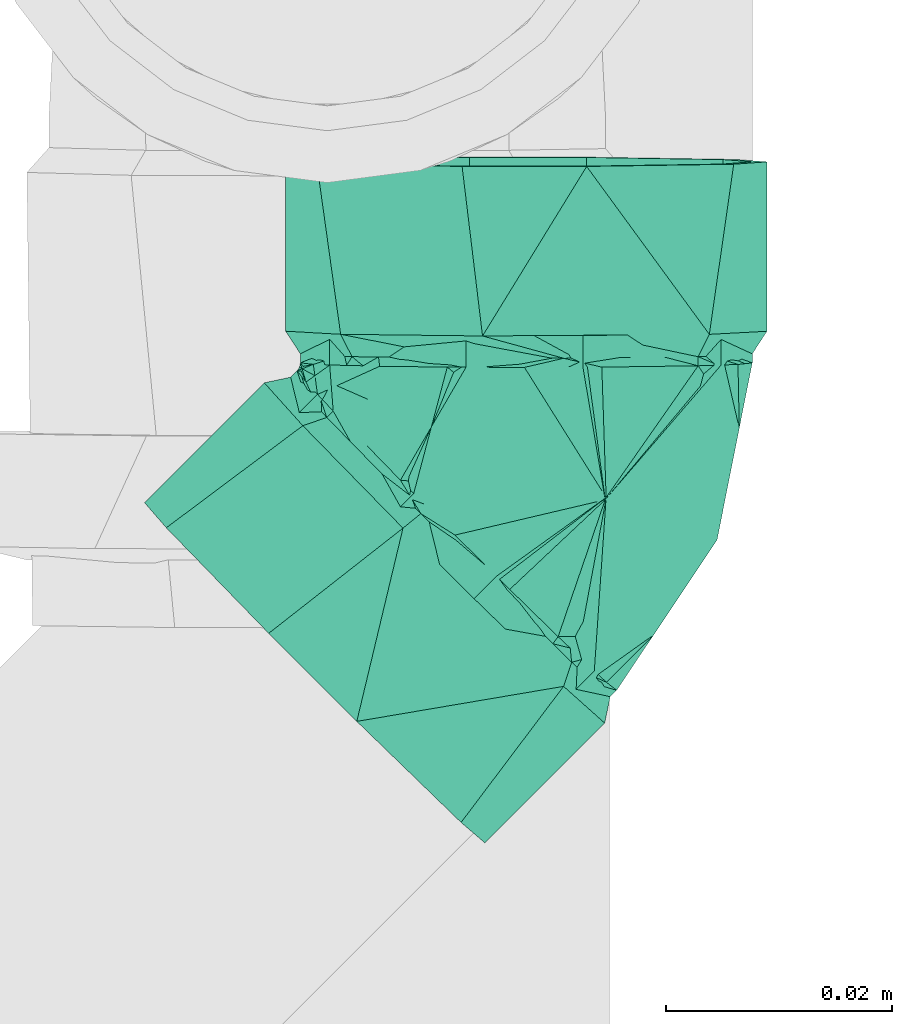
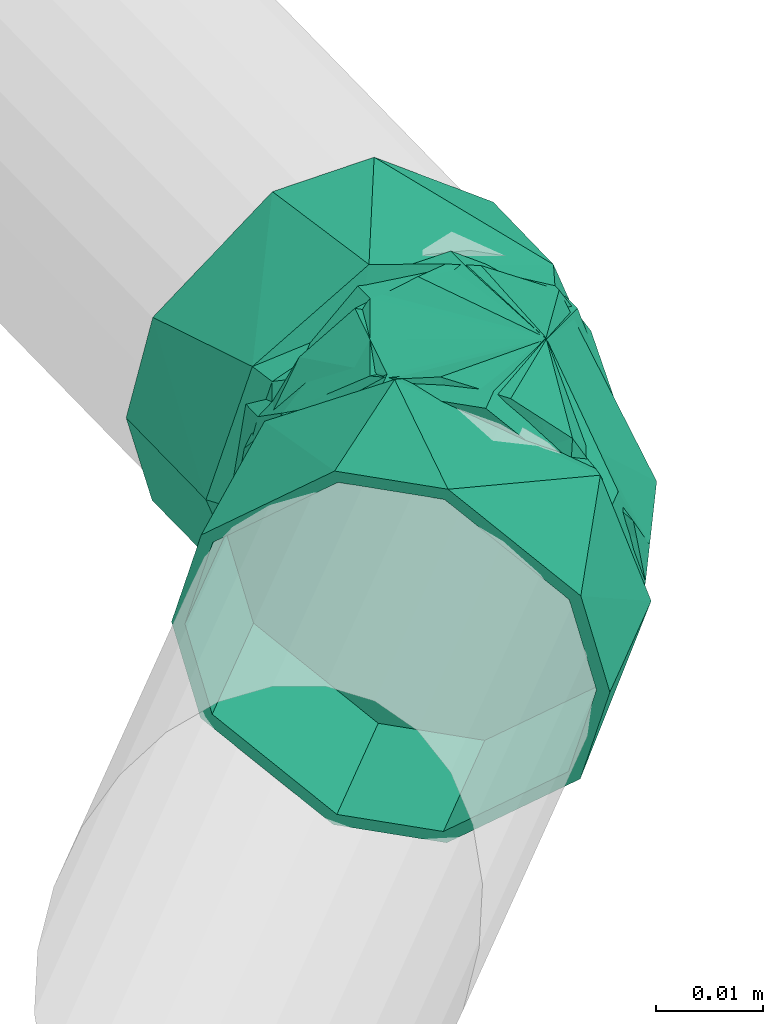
# One storey, part 332 of 589: 1 flow fitting.
"""IFC2X3 building model written with IfcOpenShell, lengths in millimetres."""

from ifc_helpers import new_model, entity, si_unit, converted_unit, derived_unit, direction, frame, origin, place, context, subcontext, project, spatial, faceted_brep, source, transform, mapped, material, type_object, type_shapes, element, save


model = new_model("IFC2X3")

# Units and contexts
model_context = context("Model", 3, precision=0.01, world=origin(), true_north=direction((6.123031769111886e-17, 1.0)))
body_context = subcontext(model_context, "Body", "Model", "MODEL_VIEW")
ifc_project = project(units=[si_unit("LENGTHUNIT", "METRE", prefix="MILLI"), si_unit("AREAUNIT", "SQUARE_METRE"), si_unit("VOLUMEUNIT", "CUBIC_METRE"), converted_unit("PLANEANGLEUNIT", "DEGREE", entity("IfcRatioMeasure", 0.017453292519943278), si_unit("PLANEANGLEUNIT", "RADIAN"), dimensions=[0, 0, 0, 0, 0, 0, 0]), si_unit("MASSUNIT", "GRAM", prefix="KILO"), derived_unit("MASSDENSITYUNIT", [(si_unit("MASSUNIT", "GRAM", prefix="KILO"), 1), (si_unit("LENGTHUNIT", "METRE"), -3)]), derived_unit("IONCONCENTRATIONUNIT", [(si_unit("MASSUNIT", "GRAM", prefix="KILO"), 1), (si_unit("LENGTHUNIT", "METRE"), -3)]), derived_unit("MOMENTOFINERTIAUNIT", [(si_unit("LENGTHUNIT", "METRE"), 4)]), si_unit("TIMEUNIT", "SECOND"), si_unit("FREQUENCYUNIT", "HERTZ"), si_unit("THERMODYNAMICTEMPERATUREUNIT", "DEGREE_CELSIUS"), derived_unit("THERMALTRANSMITTANCEUNIT", [(si_unit("MASSUNIT", "GRAM", prefix="KILO"), 1), (si_unit("THERMODYNAMICTEMPERATUREUNIT", "KELVIN"), -1), (si_unit("TIMEUNIT", "SECOND"), -3)]), derived_unit("THERMALCONDUCTANCEUNIT", [(si_unit("MASSUNIT", "GRAM", prefix="KILO"), 1), (si_unit("THERMODYNAMICTEMPERATUREUNIT", "KELVIN"), -1), (si_unit("TIMEUNIT", "SECOND"), -3), (si_unit("LENGTHUNIT", "METRE"), 1)]), derived_unit("VOLUMETRICFLOWRATEUNIT", [(si_unit("LENGTHUNIT", "METRE"), 3), (si_unit("TIMEUNIT", "SECOND"), -1)]), derived_unit("MASSFLOWRATEUNIT", [(si_unit("MASSUNIT", "GRAM", prefix="KILO"), 1), (si_unit("TIMEUNIT", "SECOND"), -1)]), derived_unit("ROTATIONALFREQUENCYUNIT", [(si_unit("TIMEUNIT", "SECOND"), -1)]), si_unit("ELECTRICCURRENTUNIT", "AMPERE"), si_unit("ELECTRICVOLTAGEUNIT", "VOLT"), si_unit("POWERUNIT", "WATT"), si_unit("FORCEUNIT", "NEWTON", prefix="KILO"), si_unit("ILLUMINANCEUNIT", "LUX"), si_unit("LUMINOUSFLUXUNIT", "LUMEN"), si_unit("LUMINOUSINTENSITYUNIT", "CANDELA"), derived_unit("USERDEFINED", [(si_unit("MASSUNIT", "GRAM", prefix="KILO"), -1), (si_unit("LENGTHUNIT", "METRE"), -2), (si_unit("TIMEUNIT", "SECOND"), 3), (si_unit("LUMINOUSFLUXUNIT", "LUMEN"), 1)]), derived_unit("USERDEFINED", [(si_unit("MASSUNIT", "GRAM", prefix="KILO"), 1), (si_unit("TIMEUNIT", "SECOND"), -3), (si_unit("LENGTHUNIT", "METRE"), 3), (si_unit("ELECTRICCURRENTUNIT", "AMPERE"), -2)]), derived_unit("SOUNDPOWERUNIT", [(si_unit("MASSUNIT", "GRAM", prefix="KILO"), 1), (si_unit("TIMEUNIT", "SECOND"), -3), (si_unit("LENGTHUNIT", "METRE"), 2)]), derived_unit("SOUNDPRESSUREUNIT", [(si_unit("MASSUNIT", "GRAM", prefix="KILO"), 1), (si_unit("LENGTHUNIT", "METRE"), -1), (si_unit("TIMEUNIT", "SECOND"), -2)]), derived_unit("LINEARVELOCITYUNIT", [(si_unit("LENGTHUNIT", "METRE"), 1), (si_unit("TIMEUNIT", "SECOND"), -1)]), si_unit("PRESSUREUNIT", "PASCAL"), derived_unit("USERDEFINED", [(si_unit("MASSUNIT", "GRAM", prefix="KILO"), 1), (si_unit("LENGTHUNIT", "METRE"), -2), (si_unit("TIMEUNIT", "SECOND"), -2)]), derived_unit("LINEARFORCEUNIT", [(si_unit("MASSUNIT", "GRAM", prefix="KILO"), 1), (si_unit("TIMEUNIT", "SECOND"), -2)]), derived_unit("PLANARFORCEUNIT", [(si_unit("MASSUNIT", "GRAM", prefix="KILO"), 1), (si_unit("LENGTHUNIT", "METRE"), -1), (si_unit("TIMEUNIT", "SECOND"), -2)]), derived_unit("SPECIFICHEATCAPACITYUNIT", [(si_unit("THERMODYNAMICTEMPERATUREUNIT", "KELVIN"), -1), (si_unit("LENGTHUNIT", "METRE"), 2), (si_unit("TIMEUNIT", "SECOND"), -2)]), derived_unit("HEATINGVALUEUNIT", [(si_unit("LENGTHUNIT", "METRE"), 2), (si_unit("TIMEUNIT", "SECOND"), -2)]), derived_unit("VAPORPERMEABILITYUNIT", [(si_unit("LENGTHUNIT", "METRE"), -1), (si_unit("TIMEUNIT", "SECOND"), 1)]), derived_unit("DYNAMICVISCOSITYUNIT", [(si_unit("MASSUNIT", "GRAM", prefix="KILO"), 1), (si_unit("TIMEUNIT", "SECOND"), -1), (si_unit("LENGTHUNIT", "METRE"), -1)]), derived_unit("THERMALEXPANSIONCOEFFICIENTUNIT", [(si_unit("THERMODYNAMICTEMPERATUREUNIT", "KELVIN"), -1)]), derived_unit("MODULUSOFELASTICITYUNIT", [(si_unit("MASSUNIT", "GRAM", prefix="KILO"), 1), (si_unit("LENGTHUNIT", "METRE"), -1), (si_unit("TIMEUNIT", "SECOND"), -2)]), derived_unit("ISOTHERMALMOISTURECAPACITYUNIT", [(si_unit("LENGTHUNIT", "METRE"), 3), (si_unit("MASSUNIT", "GRAM", prefix="KILO"), -1)]), derived_unit("MOISTUREDIFFUSIVITYUNIT", [(si_unit("TIMEUNIT", "SECOND"), -1), (si_unit("LENGTHUNIT", "METRE"), 2)])], contexts=[model_context])

# Site, building, storey
site_placement = place(None, origin())
site = spatial("IfcSite", under=ifc_project, at=site_placement, Name="Default", CompositionType="ELEMENT")
building_placement = place(site_placement, origin())
building = spatial("IfcBuilding", under=site, at=building_placement, CompositionType="ELEMENT")
storey_placement = place(building_placement, frame((0.0, 0.0, 100.0)))
storey = spatial("IfcBuildingStorey", under=building, at=storey_placement, Name="TÉRREO", CompositionType="ELEMENT", Elevation=100.0)

# Flow fitting
ifc_material = material(Name="PVC Série Normal")
pipe_fitting_type = type_object("IfcPipeFittingType", Name="PVC Esgoto_Joelho 45_90_Rodrigo MEP:a. Série Normal", PredefinedType="NOTDEFINED", material=ifc_material)
shared_shape = source(origin(), body_context, "Body", "Brep", [
    faceted_brep([(2.4906876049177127, 9.80915852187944, 19.318516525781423), (-6.095084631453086, 18.39777540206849, 10.0), (-7.989457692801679, 20.29277610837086, 0.0), (-6.095084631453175, 18.397775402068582, -10.0), (2.4906876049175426, 9.80915852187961, -19.31851652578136), (9.809983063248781, 2.4874380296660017, -19.318516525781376), (18.39575529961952, -6.101178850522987, -10.0), (20.290128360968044, -7.99617955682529, 0.0), (18.39575529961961, -6.101178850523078, 10.0), (9.809983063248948, 2.4874380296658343, 19.318516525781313), (22.27035525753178, -6.016608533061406, 0.0), (20.37598219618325, -4.121607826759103, -10.0), (11.790209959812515, 4.467009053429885, -19.318516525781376), (4.470914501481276, 11.788729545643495, -19.31851652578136), (-4.1148577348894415, 20.377346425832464, -10.0), (-6.009230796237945, 22.272347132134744, 0.0), (-4.114857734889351, 20.377346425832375, 10.0), (4.470914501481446, 11.788729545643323, 19.318516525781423), (11.790209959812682, 4.467009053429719, 19.318516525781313), (20.37598219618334, -4.12160782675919, 10.0)], [[[0, 1, 2, 3, 4, 5, 6, 7, 8, 9]], [[10, 11, 12, 13, 14, 15, 16, 17, 18, 19]], [[7, 10, 19, 8]], [[8, 19, 18, 9]], [[18, 17, 0, 9]], [[0, 17, 16, 1]], [[1, 16, 15, 2]], [[2, 15, 14, 3]], [[3, 14, 13, 4]], [[13, 12, 5, 4]], [[5, 12, 11, 6]], [[6, 11, 10, 7]]]),
    faceted_brep([(-11.496447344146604, -17.320508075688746, -10.0), (-11.496447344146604, -20.0, 0.0), (-11.496447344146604, -17.320508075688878, 10.0), (-11.496447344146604, -5.176380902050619, 19.318516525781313), (-11.496447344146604, 5.1763809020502, 19.318516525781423), (-11.496447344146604, 17.320508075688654, 10.0), (-11.496447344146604, 20.0, 0.0), (-11.496447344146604, 17.320508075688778, -10.0), (-11.496447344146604, 5.17638090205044, -19.31851652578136), (-11.496447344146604, -5.176380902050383, -19.318516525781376), (-8.696447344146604, 5.17638090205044, -19.31851652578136), (-8.696447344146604, 17.320508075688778, -10.0), (-8.696447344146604, 20.0, 0.0), (-8.696447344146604, 17.320508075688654, 10.0), (-8.696447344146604, 5.1763809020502, 19.318516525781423), (-8.696447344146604, -5.176380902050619, 19.318516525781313), (-8.696447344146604, -17.320508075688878, 10.0), (-8.696447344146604, -20.0, 0.0), (-8.696447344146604, -17.320508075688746, -10.0), (-8.696447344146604, -5.176380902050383, -19.318516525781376)], [[[0, 1, 2, 3, 4, 5, 6, 7, 8, 9]], [[10, 11, 12, 13, 14, 15, 16, 17, 18, 19]], [[1, 17, 16, 2]], [[2, 16, 15, 3]], [[15, 14, 4, 3]], [[4, 14, 13, 5]], [[5, 13, 12, 6]], [[6, 12, 11, 7]], [[7, 11, 10, 8]], [[10, 19, 9, 8]], [[9, 19, 18, 0]], [[0, 18, 17, 1]]]),
    faceted_brep([(-26.496447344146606, -5.512845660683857, -20.574220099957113), (-26.496447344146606, -5.176380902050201, -19.318516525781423), (-26.496447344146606, 5.176380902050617, -19.318516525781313), (-26.496447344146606, -18.44634110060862, -10.649999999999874), (-26.496447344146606, 5.512845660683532, -20.574220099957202), (-26.496447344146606, -17.320508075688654, -10.0), (-26.496447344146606, -20.0, 0.0), (-26.496447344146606, -21.3, 0.0), (-26.496447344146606, -17.32050807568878, 10.0), (-26.496447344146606, -18.446341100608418, 10.65000000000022), (-26.496447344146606, -5.176380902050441, 19.31851652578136), (-26.496447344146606, -5.512845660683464, 20.574220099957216), (-26.496447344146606, 5.176380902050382, 19.318516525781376), (-26.496447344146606, 5.512845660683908, 20.5742200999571), (-26.496447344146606, 17.320508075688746, 10.0), (-26.496447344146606, 18.446341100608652, 10.649999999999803), (-26.496447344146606, 21.3, 0.0), (-26.496447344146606, 20.0, 0.0), (-26.496447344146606, 18.44634110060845, -10.650000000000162), (-26.496447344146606, 17.320508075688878, -10.0), (-11.496447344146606, 17.320508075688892, -10.0), (-11.496447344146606, 20.0, 0.0), (-11.496447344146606, 5.17638090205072, -19.318516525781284), (-11.496447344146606, -5.176380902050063, -19.31851652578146), (-11.496447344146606, -17.320508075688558, -10.0), (-11.496447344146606, -20.0, 0.0), (-11.496447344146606, -17.320508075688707, 10.0), (-11.496447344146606, -5.176380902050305, 19.318516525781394), (-11.496447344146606, 5.176380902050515, 19.318516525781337), (-11.496447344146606, 17.320508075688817, 10.0), (-11.496447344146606, 21.3, 0.0), (-11.496447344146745, 16.315983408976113, 13.692285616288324), (-11.496447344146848, 3.696367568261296, 20.976817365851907), (-11.496447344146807, -16.31941754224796, 13.688192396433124), (-11.496447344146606, -21.3, 0.0), (-11.496447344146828, -6.311524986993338, 17.3325048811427), (-11.496447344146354, -16.319417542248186, -13.688192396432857), (-11.496447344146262, -3.7016293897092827, -20.975889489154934), (-11.49644734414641, 16.315983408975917, -13.692285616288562), (-11.496447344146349, 6.307177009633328, -17.334087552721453), (-9.496447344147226, -3.470767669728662, -19.69654212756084), (-9.496447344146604, 20.0, 0.0), (-9.496447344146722, 18.830849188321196, -3.2131907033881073), (-9.496447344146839, 17.66169837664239, -6.426381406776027), (-9.496447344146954, 16.4925475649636, -9.639572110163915), (-9.496447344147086, 15.323396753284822, -12.852762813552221), (-9.496447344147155, 5.9263145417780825, -16.27465247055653), (-9.496447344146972, -15.320172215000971, -12.856606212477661), (-9.496447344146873, -16.490129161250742, -9.642454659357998), (-9.496447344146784, -17.660086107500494, -6.428303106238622), (-9.496447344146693, -18.830043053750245, -3.214151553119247), (-9.496447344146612, -20.0, 0.0), (-9.496447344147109, 10.624855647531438, -14.563707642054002), (-9.496447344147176, 1.2277734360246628, -17.98559729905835), (-9.49644734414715, -6.433118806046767, -17.98655814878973), (-9.496447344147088, -9.395469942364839, -16.276574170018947), (-9.496447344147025, -12.357821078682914, -14.566590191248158), (-9.49644734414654, -18.830043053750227, 3.2141515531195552), (-9.496447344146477, -17.660086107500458, 6.428303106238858), (-9.49644734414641, -16.490129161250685, 9.64245465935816), (-9.496447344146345, -15.3201722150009, 12.856606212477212), (-9.496447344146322, -12.970687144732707, 13.711489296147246), (-9.496447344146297, -10.621202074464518, 14.566372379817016), (-9.496447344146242, -5.922231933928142, 16.27613854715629), (-9.496447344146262, 15.323396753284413, 12.852762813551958), (-9.496447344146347, 16.49254756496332, 9.63957211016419), (-9.496447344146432, 17.661698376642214, 6.426381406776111), (-9.496447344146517, 18.830849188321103, 3.213190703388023), (-9.496447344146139, 3.47570834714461, 19.695670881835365), (-9.496447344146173, 6.43763044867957, 17.984943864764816), (-9.496447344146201, 9.399552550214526, 16.274216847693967), (-9.496447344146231, 12.361474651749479, 14.563489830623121), (-9.496447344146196, -1.2232617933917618, 17.985904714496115), (-8.696447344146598, 17.057389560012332, 9.848048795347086), (-8.696447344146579, 6.840479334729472, 18.793824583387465), (-8.696447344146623, -9.848049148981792, 17.057385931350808), (-8.696447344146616, -3.420183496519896, 19.396932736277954), (-8.696447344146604, 0.0, 20.0), (-8.696447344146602, 19.396930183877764, 3.4201905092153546), (-8.696447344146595, 15.320918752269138, 12.855716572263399), (-8.696447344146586, 11.080699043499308, 15.82477057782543), (-8.696447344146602, 18.793860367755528, 6.840381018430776), (-8.696447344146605, -18.793848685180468, 6.840413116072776), (-8.696447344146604, 20.0, 0.0), (-8.696447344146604, -20.0, 0.0), (-8.69644734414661, -15.824789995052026, 11.080659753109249), (-8.696447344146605, -19.156924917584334, 4.781308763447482), (-8.696447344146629, -6.84036699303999, 18.793865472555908), (-8.696447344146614, -14.34026064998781, 13.200783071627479), (-8.696447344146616, -12.855731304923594, 15.320906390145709), (-8.696447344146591, 3.420239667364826, 19.396912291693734), (-8.696447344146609, -17.057361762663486, -9.848091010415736), (-8.696447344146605, -18.793848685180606, -6.840413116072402), (-8.696447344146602, 19.39693018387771, -3.4201905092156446), (-8.696447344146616, -3.420183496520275, -19.396932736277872), (-8.696447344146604, 0.0, -20.0), (-8.696447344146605, -19.396924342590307, -3.4202065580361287), (-8.696447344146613, -15.320874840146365, -12.85576890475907), (-8.69644734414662, -11.080620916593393, -15.824817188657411), (-8.696447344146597, 15.824828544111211, -11.080616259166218), (-8.696447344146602, 18.79386036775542, -6.84038101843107), (-8.696447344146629, -6.840366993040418, -18.79386547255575), (-8.696447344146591, 12.855796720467, -15.320851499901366), (-8.696447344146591, 3.420239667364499, -19.396912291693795), (-8.696447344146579, 6.840479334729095, -18.7938245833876), (-8.696447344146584, 9.848138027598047, -17.05733804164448), (9.809983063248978, 2.4874380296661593, -19.318516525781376), (2.4906876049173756, 9.809158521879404, -19.31851652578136), (-6.095084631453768, 18.397775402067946, -10.0), (-7.989457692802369, 20.292776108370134, 0.0), (-6.095084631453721, 18.3977754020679, 10.0), (2.490687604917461, 9.809158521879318, 19.31851652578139), (9.809983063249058, 2.487438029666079, 19.318516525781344), (18.395755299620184, -6.101178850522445, 10.0), (20.29012836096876, -7.996179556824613, 0.0), (18.39575529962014, -6.101178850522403, -10.0), (-2.9114305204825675, -18.849537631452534, 0.0), (15.385461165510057, -11.272492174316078, 0.0), (2.8664382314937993, -7.211469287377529, 17.605576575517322), (6.9904363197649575, -16.880360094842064, 0.0), (-8.313840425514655, 20.076088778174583, 0.0), (2.8664382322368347, -7.211469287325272, -17.605576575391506)], [[[0, 1, 2]], [[1, 0, 3]], [[2, 4, 0]], [[3, 5, 1]], [[3, 6, 5]], [[6, 3, 7]], [[8, 6, 7]], [[8, 7, 9]], [[9, 10, 8]], [[9, 11, 10]], [[10, 11, 12]], [[13, 12, 11]], [[13, 14, 12]], [[14, 13, 15]], [[16, 14, 15]], [[17, 14, 16]], [[18, 17, 16]], [[18, 19, 17]], [[19, 18, 4]], [[4, 2, 19]], [[20, 21, 17, 19]], [[22, 20, 19, 2]], [[2, 1, 23, 22]], [[24, 23, 1, 5]], [[25, 24, 5, 6]], [[26, 25, 6, 8]], [[27, 26, 8, 10]], [[10, 12, 28, 27]], [[29, 28, 12, 14]], [[21, 29, 14, 17]], [[16, 15, 30]], [[15, 31, 30]], [[31, 15, 13]], [[31, 13, 32]], [[33, 11, 9]], [[34, 9, 7]], [[11, 33, 35, 32]], [[33, 9, 34]], [[11, 32, 13]], [[7, 3, 34]], [[3, 36, 34]], [[36, 3, 0]], [[36, 0, 37]], [[38, 4, 18]], [[30, 18, 16]], [[4, 38, 39, 37]], [[38, 18, 30]], [[4, 37, 0]], [[28, 29, 21, 20, 22, 23, 24, 25, 26, 27]], [[39, 40, 37]], [[30, 41, 42, 43, 44, 45]], [[30, 45, 38]], [[38, 46, 39]], [[36, 47, 48, 49, 50, 51]], [[38, 45, 52, 46]], [[36, 37, 47]], [[34, 36, 51]], [[39, 46, 53, 40]], [[37, 40, 54, 55, 56, 47]], [[33, 51, 57, 58, 59, 60]], [[33, 34, 51]], [[60, 35, 33]], [[35, 60, 61, 62, 63]], [[63, 32, 35]], [[30, 64, 65, 66, 67, 41]], [[31, 68, 69, 70, 71, 64]], [[31, 64, 30]], [[32, 63, 72, 68]], [[68, 31, 32]], [[64, 73, 65]], [[74, 70, 69, 68]], [[62, 75, 63]], [[76, 77, 72]], [[78, 67, 66]], [[79, 71, 80]], [[65, 81, 66]], [[64, 79, 73]], [[82, 59, 58]], [[83, 41, 67]], [[84, 57, 51]], [[60, 59, 85]], [[83, 67, 78]], [[86, 82, 58]], [[81, 65, 73]], [[63, 87, 76]], [[63, 76, 72]], [[63, 75, 87]], [[82, 85, 59]], [[68, 72, 77]], [[66, 81, 78]], [[61, 88, 89]], [[89, 62, 61]], [[68, 77, 90, 74]], [[84, 86, 57]], [[86, 58, 57]], [[89, 75, 62]], [[61, 60, 88]], [[60, 85, 88]], [[74, 80, 70]], [[71, 79, 64]], [[71, 70, 80]], [[49, 91, 92]], [[93, 43, 42]], [[54, 40, 94]], [[40, 53, 95]], [[51, 96, 84]], [[97, 56, 98]], [[48, 97, 91]], [[91, 49, 48]], [[99, 44, 100]], [[101, 55, 54]], [[96, 51, 50]], [[83, 42, 41]], [[45, 99, 102]], [[49, 92, 50]], [[42, 83, 93]], [[48, 47, 97]], [[53, 103, 95]], [[104, 103, 46]], [[52, 105, 46]], [[44, 99, 45]], [[46, 103, 53]], [[50, 92, 96]], [[105, 52, 102]], [[44, 43, 100]], [[40, 95, 94]], [[100, 43, 93]], [[102, 52, 45]], [[105, 104, 46]], [[101, 98, 55]], [[54, 94, 101]], [[56, 97, 47]], [[56, 55, 98]], [[106, 107, 108, 109, 110, 111, 112, 113, 114, 115]], [[116, 89, 88, 85, 82]], [[117, 118, 119]], [[118, 89, 119]], [[118, 77, 76, 87]], [[116, 82, 86, 84]], [[118, 74, 90, 77]], [[110, 81, 73, 79]], [[111, 79, 80, 74]], [[118, 87, 75, 89]], [[89, 116, 119]], [[74, 118, 111]], [[118, 113, 112]], [[118, 117, 113]], [[120, 83, 78, 81]], [[81, 109, 120]], [[109, 81, 110]], [[117, 114, 113]], [[111, 110, 79]], [[111, 118, 112]], [[104, 107, 121]], [[116, 92, 91, 97]], [[108, 102, 99, 100]], [[115, 121, 106]], [[97, 121, 119]], [[107, 104, 105, 102]], [[116, 84, 96, 92]], [[97, 119, 116]], [[121, 97, 98, 101]], [[121, 95, 103, 104]], [[109, 100, 120]], [[108, 100, 109]], [[107, 102, 108]], [[121, 101, 94, 95]], [[107, 106, 121]], [[119, 121, 117]], [[115, 117, 121]], [[115, 114, 117]], [[120, 100, 93, 83]]]),
    faceted_brep([(-6.009230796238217, 22.27234713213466, 0.0), (-4.114857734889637, 20.37734642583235, 10.0), (4.470914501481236, 11.788729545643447, 19.318516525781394), (11.790209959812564, 4.467009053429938, 19.318516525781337), (20.375982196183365, -4.1216078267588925, 10.0), (22.27035525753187, -6.016608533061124, 0.0), (20.37598219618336, -4.121607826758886, -10.0), (11.790209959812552, 4.467009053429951, -19.318516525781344), (4.470914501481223, 11.788729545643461, -19.31851652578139), (-4.114857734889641, 20.377346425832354, -10.0), (23.18944180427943, -6.935999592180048, 0.0), (20.855907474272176, -7.430587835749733, 0.0), (20.02932994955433, -6.603736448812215, -3.213190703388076), (19.20275242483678, -5.7768850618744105, -6.426381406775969), (18.376174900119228, -4.950033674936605, -9.639572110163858), (17.54959737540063, -4.123182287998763, -12.852762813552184), (3.6683793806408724, 12.591530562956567, -17.332504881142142), (10.743855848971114, 5.513709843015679, -20.976817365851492), (4.26231762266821, 9.168499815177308, -19.69654212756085), (19.665793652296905, -3.411183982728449, -13.692285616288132), (-4.115088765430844, 17.54868181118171, -12.856606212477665), (-3.407097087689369, 19.669351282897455, -13.688192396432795), (2.167966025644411, 11.263545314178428, -17.986558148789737), (0.0736144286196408, 13.358590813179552, -16.27657417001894), (-2.0207371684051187, 15.453636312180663, -14.566590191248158), (10.905957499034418, 2.5226587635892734, -16.274652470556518), (-4.942236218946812, 18.37610331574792, -9.642454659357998), (-5.7693836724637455, 19.203524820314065, -6.428303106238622), (-6.596531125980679, 20.030946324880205, -3.2141515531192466), (-7.423678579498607, 20.858367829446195, 0.0), (-6.928317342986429, 23.191738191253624, 0.0), (14.227777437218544, -0.800261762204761, -14.563707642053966), (7.584137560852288, 5.845579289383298, -17.98559729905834), (-3.4070970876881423, 19.669351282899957, 13.688192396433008), (-6.596531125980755, 20.030946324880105, 3.2141515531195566), (-5.7693836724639, 19.20352482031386, 6.428303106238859), (-4.942236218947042, 18.37610331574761, 9.64245465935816), (-4.115088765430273, 17.548681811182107, 12.856606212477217), (12.589671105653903, 3.6672830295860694, 17.334087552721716), (5.513548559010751, 10.745750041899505, 20.97588948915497), (9.173404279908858, 4.255786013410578, 19.695670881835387), (17.549597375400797, -4.123182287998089, 12.852762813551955), (19.66579365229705, -3.4111839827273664, 13.692285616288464), (11.267452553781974, 2.1610439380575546, 17.984943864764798), (13.361500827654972, 0.0663018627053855, 16.274216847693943), (15.455549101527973, -2.028440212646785, 14.563489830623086), (2.5291577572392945, 10.902233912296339, 16.276138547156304), (18.376174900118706, -4.950033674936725, 9.639572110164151), (19.202752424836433, -5.77688506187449, 6.426381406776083), (20.029329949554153, -6.603736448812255, 3.2131907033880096), (-2.4540271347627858, 15.887069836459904, 13.711489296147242), (-0.7929655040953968, 14.225457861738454, 14.566372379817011), (5.851281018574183, 7.579009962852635, 17.985904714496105), (14.841395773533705, 22.631530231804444, -20.574220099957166), (15.079272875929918, 22.39357431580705, -19.318516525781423), (22.398568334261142, 15.071853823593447, -19.318516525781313), (5.697548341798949, 31.77840720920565, -10.649999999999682), (22.63644543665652, 14.833897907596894, -20.574220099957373), (6.493500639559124, 30.982191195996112, -10.0), (4.599127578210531, 32.877191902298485, 0.0), (3.6800410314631, 33.79658296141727, 0.0), (6.493500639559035, 30.9821911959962, 10.0), (5.69754834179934, 31.778407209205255, 10.650000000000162), (15.079272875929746, 22.393574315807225, 19.31851652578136), (14.841395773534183, 22.631530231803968, 20.5742200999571), (22.39856833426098, 15.071853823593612, 19.318516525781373), (22.636445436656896, 14.833897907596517, 20.57422009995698), (30.984340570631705, 6.48323694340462, 10.0), (31.780292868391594, 5.687020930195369, 10.649999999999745), (33.79780017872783, 3.668845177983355, 0.0), (32.87871363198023, 4.588236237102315, 0.0), (31.780292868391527, 5.687020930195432, -10.650000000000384), (30.984340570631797, 6.4832369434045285, -10.0), (18.209713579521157, -5.915075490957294, 9.848091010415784), (10.98640400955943, 1.3106273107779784, 18.793865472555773), (-0.8121963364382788, 13.113136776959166, 17.057338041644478), (3.7322612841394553, 8.567173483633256, 19.396912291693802), (6.150335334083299, 6.148298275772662, 20.0), (19.863760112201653, -7.5696700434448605, 3.420206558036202), (16.98203529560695, -4.686990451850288, 12.855768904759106), (13.984219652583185, -1.6881815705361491, 15.824817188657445), (19.43739186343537, -7.143160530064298, 6.84041311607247), (-7.136729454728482, 19.43976534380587, 6.840381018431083), (20.29012836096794, -7.996179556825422, 0.0), (-7.989457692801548, 20.29277610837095, 0.0), (-5.037654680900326, 17.33999510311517, 11.080616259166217), (-7.393415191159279, 19.696536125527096, 4.781309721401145), (1.3141872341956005, 10.986048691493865, 18.793824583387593), (-3.98811729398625, 16.290109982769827, 13.200733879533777), (-2.9385799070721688, 15.240224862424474, 15.320851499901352), (8.568369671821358, 3.7294627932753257, 19.39693273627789), (-5.909062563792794, 18.211691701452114, -9.848048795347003), (-7.13672945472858, 19.439765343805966, -6.840381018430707), (19.86376011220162, -7.5696700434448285, -3.420206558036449), (3.732261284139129, 8.567173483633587, -19.396912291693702), (6.15033533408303, 6.148298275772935, -20.0), (-7.563093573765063, 19.86627072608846, -3.4201905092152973), (-4.681395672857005, 16.983618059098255, -12.85571657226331), (-1.6836042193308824, 13.98483337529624, -15.824770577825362), (17.33829809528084, -5.043371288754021, -11.080659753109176), (19.437391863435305, -7.143160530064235, -6.840413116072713), (1.3141872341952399, 10.986048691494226, -18.793824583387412), (15.23920432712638, -2.9435820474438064, -15.32090639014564), (8.568369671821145, 3.729462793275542, -19.396932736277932), (10.986404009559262, 1.3106273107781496, -18.79386547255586), (13.112804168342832, -0.8164773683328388, -17.05738593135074), (-8.696447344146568, -17.32050807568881, 10.0), (-8.696447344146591, -5.176380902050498, 19.318516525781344), (-8.696447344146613, 5.176380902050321, 19.31851652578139), (-8.696447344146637, 17.320508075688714, 10.0), (-8.696447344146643, 20.0, 0.0), (-8.696447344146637, 17.320508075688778, -10.0), (-8.696447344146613, 5.176380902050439, -19.31851652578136), (-8.696447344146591, -5.176380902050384, -19.318516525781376), (-8.696447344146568, -17.32050807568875, -10.0), (-8.696447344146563, -20.0, 0.0), (6.9904363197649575, -16.880360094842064, 0.0), (3.0712196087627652, -7.126666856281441, 17.605576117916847), (-2.9114305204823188, -18.84953763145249, 0.0), (-8.313840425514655, 20.076088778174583, 0.0), (15.385461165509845, -11.272492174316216, 0.0), (3.071219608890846, -7.126666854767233, -17.6055761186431)], [[[0, 1, 2, 3, 4, 5, 6, 7, 8, 9]], [[10, 11, 12, 13, 14, 15]], [[16, 17, 18]], [[19, 10, 15]], [[16, 20, 21]], [[16, 18, 22, 23, 24, 20]], [[19, 25, 17]], [[21, 20, 26, 27, 28, 29]], [[21, 29, 30]], [[19, 15, 31, 25]], [[17, 25, 32, 18]], [[33, 29, 34, 35, 36, 37]], [[38, 39, 40]], [[33, 30, 29]], [[38, 41, 42]], [[38, 40, 43, 44, 45, 41]], [[33, 46, 39]], [[10, 41, 47, 48, 49, 11]], [[42, 41, 10]], [[33, 37, 50, 51, 46]], [[39, 46, 52, 40]], [[53, 54, 55]], [[54, 53, 56]], [[55, 57, 53]], [[56, 58, 54]], [[56, 59, 58]], [[59, 56, 60]], [[61, 59, 60]], [[61, 60, 62]], [[62, 63, 61]], [[62, 64, 63]], [[63, 64, 65]], [[66, 65, 64]], [[66, 67, 65]], [[67, 66, 68]], [[69, 67, 68]], [[70, 67, 69]], [[71, 70, 69]], [[71, 72, 70]], [[72, 71, 57]], [[57, 55, 72]], [[69, 68, 10]], [[68, 42, 10]], [[42, 68, 66]], [[66, 39, 38, 42]], [[33, 64, 62]], [[30, 62, 60]], [[64, 33, 39]], [[33, 62, 30]], [[64, 39, 66]], [[60, 56, 30]], [[56, 21, 30]], [[21, 56, 53]], [[53, 17, 16, 21]], [[19, 57, 71]], [[10, 71, 69]], [[57, 19, 17]], [[19, 71, 10]], [[57, 17, 53]], [[6, 5, 70, 72]], [[7, 6, 72, 55]], [[55, 54, 8, 7]], [[9, 8, 54, 58]], [[0, 9, 58, 59]], [[1, 0, 59, 61]], [[2, 1, 61, 63]], [[63, 65, 3, 2]], [[4, 3, 65, 67]], [[5, 4, 67, 70]], [[41, 73, 47]], [[74, 44, 43, 40]], [[51, 75, 46]], [[76, 77, 52]], [[78, 49, 48]], [[79, 45, 80]], [[47, 81, 48]], [[41, 79, 73]], [[82, 36, 35]], [[83, 11, 49]], [[84, 34, 29]], [[37, 36, 85]], [[83, 49, 78]], [[86, 82, 35]], [[81, 47, 73]], [[46, 87, 76]], [[46, 76, 52]], [[46, 75, 87]], [[82, 85, 36]], [[40, 52, 77]], [[48, 81, 78]], [[50, 88, 89]], [[89, 51, 50]], [[40, 77, 90, 74]], [[84, 86, 34]], [[86, 35, 34]], [[89, 75, 51]], [[50, 37, 88]], [[37, 85, 88]], [[74, 80, 44]], [[45, 79, 41]], [[45, 44, 80]], [[27, 91, 92]], [[93, 13, 12]], [[22, 18, 94]], [[18, 32, 95]], [[29, 96, 84]], [[97, 24, 98]], [[26, 97, 91]], [[91, 27, 26]], [[99, 14, 100]], [[101, 23, 22]], [[96, 29, 28]], [[83, 12, 11]], [[15, 99, 102]], [[27, 92, 28]], [[12, 83, 93]], [[26, 20, 97]], [[32, 103, 95]], [[104, 103, 25]], [[31, 105, 25]], [[14, 99, 15]], [[25, 103, 32]], [[28, 92, 96]], [[105, 31, 102]], [[14, 13, 100]], [[18, 95, 94]], [[100, 13, 93]], [[102, 31, 15]], [[105, 104, 25]], [[101, 98, 23]], [[22, 94, 101]], [[24, 97, 20]], [[24, 23, 98]], [[106, 107, 108, 109, 110, 111, 112, 113, 114, 115]], [[116, 117, 118]], [[107, 117, 108]], [[118, 117, 106]], [[109, 108, 89]], [[82, 119, 110]], [[110, 109, 82]], [[106, 115, 118]], [[117, 74, 90, 77]], [[79, 117, 116]], [[117, 79, 80, 74]], [[79, 116, 120]], [[117, 77, 76, 87]], [[119, 82, 86, 84]], [[120, 81, 73, 79]], [[109, 89, 88, 85, 82]], [[108, 87, 75, 89]], [[106, 117, 107]], [[117, 87, 108]], [[120, 83, 78, 81]], [[121, 112, 101]], [[111, 110, 92]], [[118, 115, 114]], [[111, 97, 112]], [[121, 118, 114]], [[121, 114, 113]], [[113, 112, 121]], [[92, 110, 119]], [[111, 92, 91, 97]], [[112, 97, 98, 101]], [[121, 104, 105, 102]], [[118, 121, 116]], [[121, 101, 94, 95]], [[102, 116, 121]], [[120, 100, 93, 83]], [[116, 102, 120]], [[120, 102, 99, 100]], [[121, 95, 103, 104]], [[119, 84, 96, 92]]]),
])
type_shapes(pipe_fitting_type, [shared_shape])
flow_fitting_placement = place(storey_placement, frame((127.29114292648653, -7158.993217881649, -239.32664583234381), z_axis=(-0.008282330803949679, -0.019995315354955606, 0.999765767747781), x_axis=(0.7069654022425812, 0.7069654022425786, 0.01999600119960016)))
element("IfcFlowFitting", 1, at=flow_fitting_placement, inside=storey, type_object=pipe_fitting_type, material=ifc_material, Name="PVC Esgoto_Joelho 45_90_Rodrigo MEP:a. Série Normal", ObjectType="PVC Esgoto_Joelho 45_90_Rodrigo MEP:a. Série Normal", context=body_context, shape_type="MappedRepresentation", body=[
    mapped(shared_shape, transform((0.0, 0.0, 0.0), scale=1.0)),
])

save(model, "model.ifc")
